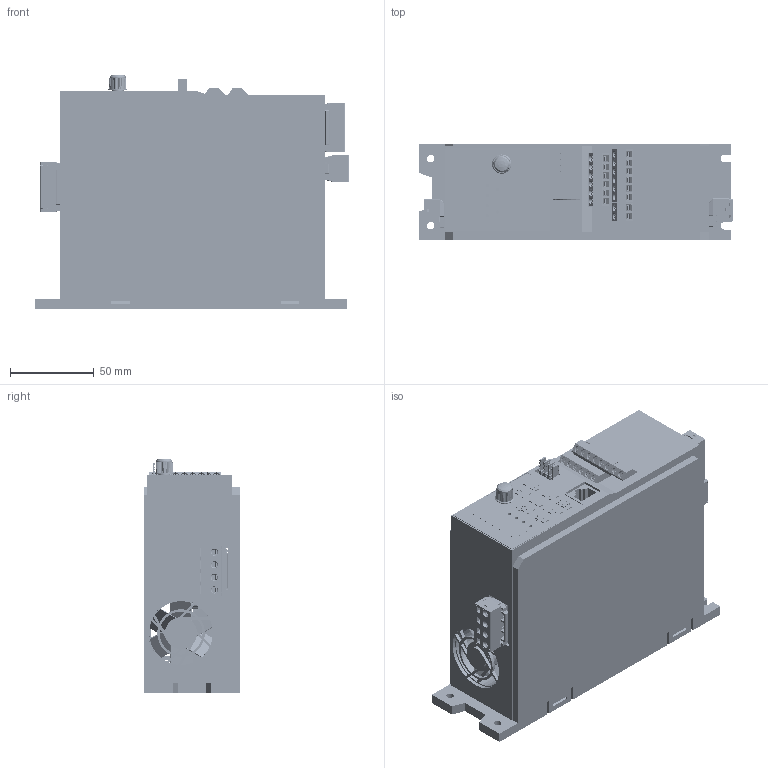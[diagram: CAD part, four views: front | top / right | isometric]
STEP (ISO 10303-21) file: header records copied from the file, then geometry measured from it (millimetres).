
FILE_DESCRIPTION(('STEP AP242'), '1');
FILE_NAME('E5-Mini 3D (0.4êÂò-0.75êÂò 220Â)(0.75êÂò-1.5êÂò 380Â)', '2025-12-24T10:31:28', (''), (''), 'C3D Converter', 'C3D Toolkit', '');
FILE_SCHEMA(('AP242_MANAGED_MODEL_BASED_3D_ENGINEERING_MIM_LF { 1 0 10303 442 1 1 4 }'));
Length unit declared in the file: millimetre
Products named in the file (3): 0-E5-Mini Корпус; J-RJ45-W1
Assembly tree (2 placements, depth 2):
  0-E5-Mini Корпус
    (unnamed)
    J-RJ45-W1
Bounding box: 187.1 x 57 x 140 mm (x, y, z)
Volume: 4135.6 mm3; surface area: 317288.1 mm2
Topology: 21 solids, 1101 shells, 8890 faces, 33997 edges, 25700 vertices
Faces by surface type: plane 7462, cylinder 752, extrusion 455, bspline 106, torus 74, cone 28, revolution 8, sphere 5
Full cylindrical faces by diameter (mm): 0.51 x21, 0.6 x3, 0.7 x8, 1 x4, 1.2 x43, 2 x12, 2.2 x13, 2.4 x2, 2.9 x6, 3 x14, 3.5 x14, 3.9 x6, 4 x33, 4.3 x10, 4.5 x8, 5.6 x1, 6.5 x4, 6.78 x1, 7 x11, 7.2 x3, 8 x1, 8.5 x8, 8.8 x1, 9 x5, 10 x1, 15 x1, 19 x1, 30 x2, 31.5 x2, 38 x1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
Entity records: 460141 total; most frequent: CARTESIAN_POINT 111368, ORIENTED_EDGE 51795, DIRECTION 48491, EDGE_CURVE 33630, VECTOR 27219, LINE 26764, VERTEX_POINT 25683, AXIS2_PLACEMENT_3D 10632
